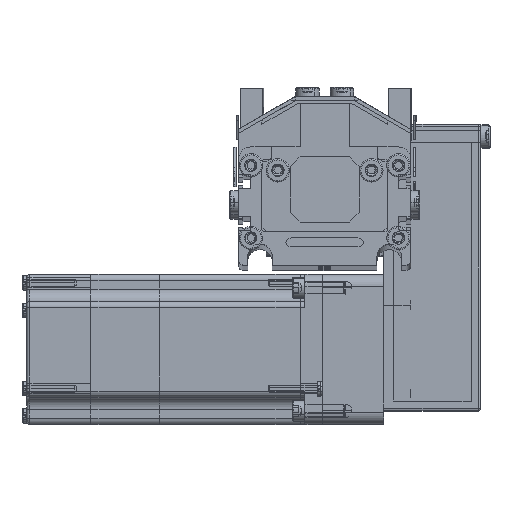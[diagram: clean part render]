
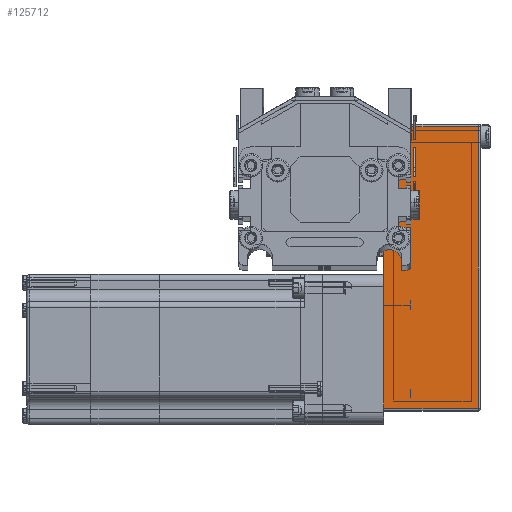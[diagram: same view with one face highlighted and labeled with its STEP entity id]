
A CAD part, top view. The second image highlights one B-rep face of the part: STEP entity #125712.
In plain terms, the highlighted planar face has unit normal (0, 0, 1) as drawn and (0, -1, 0) by its records, which use the part's own axes.
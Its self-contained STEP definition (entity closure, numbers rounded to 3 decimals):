
#46874 = CARTESIAN_POINT ( 'NONE',  ( 65.5, -25., 38.5 ) ) ;
#54305 = CARTESIAN_POINT ( 'NONE',  ( 65.5, -25., 0. ) ) ;
#54522 = CARTESIAN_POINT ( 'NONE',  ( -50., -25., 38.5 ) ) ;
#54568 = CARTESIAN_POINT ( 'NONE',  ( -49., -25., 38.5 ) ) ;
#54590 = DIRECTION ( 'NONE',  ( -1., 0., 0. ) ) ;
#54836 = VECTOR ( 'NONE', #54590, 1000. ) ;
#55161 = LINE ( 'NONE', #54522, #54836 ) ;
#55338 = DIRECTION ( 'NONE',  ( 1., 0., 0. ) ) ;
#55341 = CARTESIAN_POINT ( 'NONE',  ( -50., -25., 0. ) ) ;
#55856 = CARTESIAN_POINT ( 'NONE',  ( -49., -25., 0. ) ) ;
#55955 = VECTOR ( 'NONE', #55338, 1000. ) ;
#56092 = LINE ( 'NONE', #55341, #55955 ) ;
#67093 = FACE_OUTER_BOUND ( 'NONE', #125614, .T. ) ;
#67191 = CARTESIAN_POINT ( 'NONE',  ( -50., -25., 39.5 ) ) ;
#67229 = DIRECTION ( 'NONE',  ( 0., 0., 1. ) ) ;
#67233 = AXIS2_PLACEMENT_3D ( 'NONE', #67191, #67447, #67324 ) ;
#67297 = CARTESIAN_POINT ( 'NONE',  ( 65.5, -25., 39.5 ) ) ;
#67300 = LINE ( 'NONE', #67297, #67453 ) ;
#67324 = DIRECTION ( 'NONE',  ( 0., 0., 1. ) ) ;
#67348 = PLANE ( 'NONE',  #67233 ) ;
#67350 = LINE ( 'NONE', #67380, #67376 ) ;
#67374 = DIRECTION ( 'NONE',  ( 0., 0., -1. ) ) ;
#67376 = VECTOR ( 'NONE', #67374, 1000. ) ;
#67380 = CARTESIAN_POINT ( 'NONE',  ( -49., -25., 39.5 ) ) ;
#67447 = DIRECTION ( 'NONE',  ( 0., 1., 0. ) ) ;
#67453 = VECTOR ( 'NONE', #67229, 1000. ) ;
#125298 = VERTEX_POINT ( 'NONE', #46874 ) ;
#125423 = VERTEX_POINT ( 'NONE', #54568 ) ;
#125464 = ORIENTED_EDGE ( 'NONE', *, *, #125468, .T. ) ;
#125468 = EDGE_CURVE ( 'NONE', #125298, #125423, #55161, .T. ) ;
#125515 = VERTEX_POINT ( 'NONE', #54305 ) ;
#125533 = VERTEX_POINT ( 'NONE', #55856 ) ;
#125546 = EDGE_CURVE ( 'NONE', #125533, #125515, #56092, .T. ) ;
#125614 = EDGE_LOOP ( 'NONE', ( #125464, #125717, #125625, #125628 ) ) ;
#125625 = ORIENTED_EDGE ( 'NONE', *, *, #125546, .T. ) ;
#125628 = ORIENTED_EDGE ( 'NONE', *, *, #125697, .T. ) ;
#125697 = EDGE_CURVE ( 'NONE', #125515, #125298, #67300, .T. ) ;
#125712 = ADVANCED_FACE ( 'NONE', ( #67093 ), #67348, .F. ) ;
#125717 = ORIENTED_EDGE ( 'NONE', *, *, #125719, .T. ) ;
#125719 = EDGE_CURVE ( 'NONE', #125423, #125533, #67350, .T. ) ;
